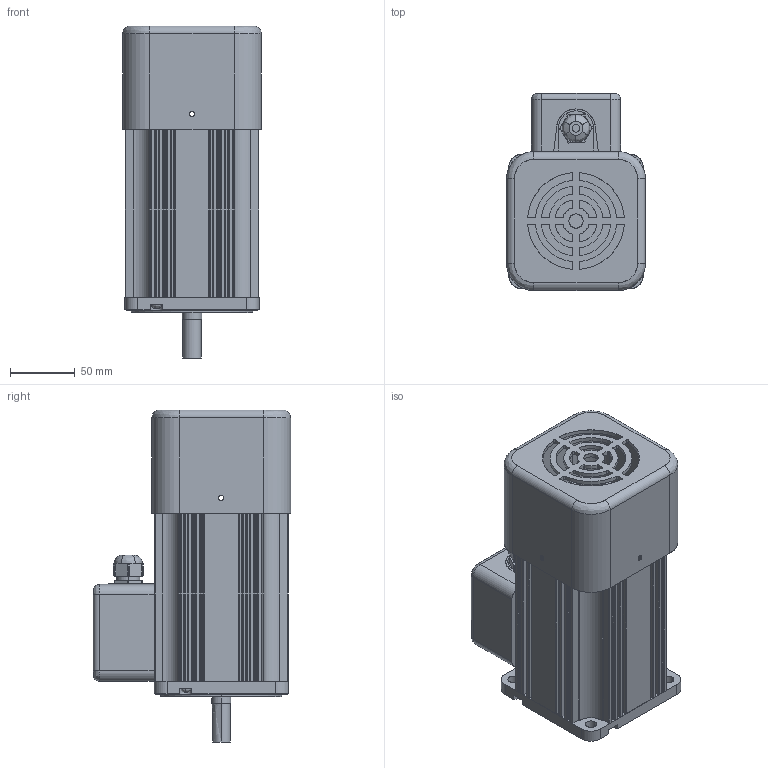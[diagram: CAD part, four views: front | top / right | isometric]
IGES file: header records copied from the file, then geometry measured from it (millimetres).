
Start section: SolidWorks IGES file using analytic representation for surfaces
Global section: file name: C:\Users\dkmｿｬｱｸｽﾇ\Desktop\ｱ箙ｯｱ秉10BDK6-400F-T.IGS,1; native system: 5HSolidWorks 2011; preprocessor: SolidWorks 2011; author: dkmｿｬｱｸｽﾇ; date: 160329.094207; units: millimetre
Bounding box: 107.4 x 152.7 x 257 mm (x, y, z)
Surface area: 210983.7 mm2 (no closed solid volume)
Topology: 0 solids, 0 shells, 565 faces, 7677 edges, 7677 vertices
Faces by surface type: revolution 288, bspline 277
